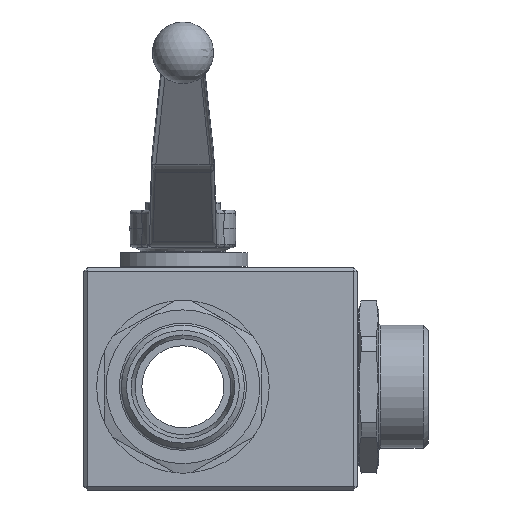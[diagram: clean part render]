
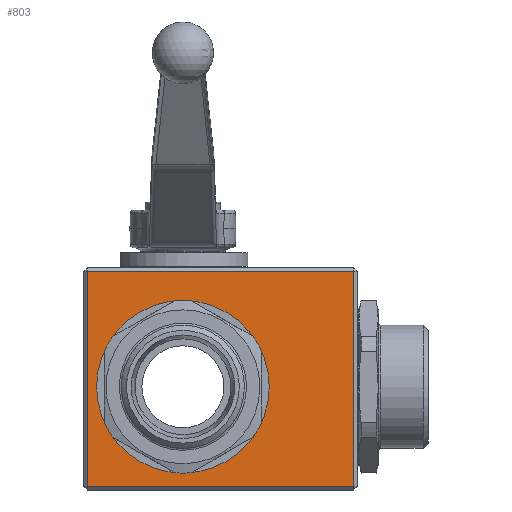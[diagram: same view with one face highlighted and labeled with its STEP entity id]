
A CAD part, front view. The second image highlights one B-rep face of the part: STEP entity #803.
In plain terms, the highlighted planar face has unit normal (0, -1, 0).
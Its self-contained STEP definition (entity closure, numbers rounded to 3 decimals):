
#803 = ADVANCED_FACE( '', ( #1738, #1739 ), #1740, .F. );
#1738 = FACE_OUTER_BOUND( '', #3197, .T. );
#1739 = FACE_BOUND( '', #3198, .T. );
#1740 = PLANE( '', #3199 );
#3197 = EDGE_LOOP( '', ( #5491, #5492, #5493, #5494 ) );
#3198 = EDGE_LOOP( '', ( #5495 ) );
#3199 = AXIS2_PLACEMENT_3D( '', #5496, #5497, #5498 );
#5491 = ORIENTED_EDGE( '', *, *, #7657, .T. );
#5492 = ORIENTED_EDGE( '', *, *, #7690, .T. );
#5493 = ORIENTED_EDGE( '', *, *, #8119, .T. );
#5494 = ORIENTED_EDGE( '', *, *, #7707, .T. );
#5495 = ORIENTED_EDGE( '', *, *, #8120, .F. );
#5496 = CARTESIAN_POINT( '', ( -29., -32.5, 34.8 ) );
#5497 = DIRECTION( '', ( 0., 1., 0. ) );
#5498 = DIRECTION( '', ( 0., 0., 1. ) );
#7657 = EDGE_CURVE( '', #8840, #8845, #8847, .T. );
#7690 = EDGE_CURVE( '', #8845, #8903, #8905, .T. );
#7707 = EDGE_CURVE( '', #8933, #8840, #8934, .T. );
#8119 = EDGE_CURVE( '', #8903, #8933, #9621, .T. );
#8120 = EDGE_CURVE( '', #9622, #9622, #9623, .T. );
#8840 = VERTEX_POINT( '', #10593 );
#8845 = VERTEX_POINT( '', #10600 );
#8847 = LINE( '', #10603, #10604 );
#8903 = VERTEX_POINT( '', #10834 );
#8905 = LINE( '', #10837, #10838 );
#8933 = VERTEX_POINT( '', #10895 );
#8934 = LINE( '', #10896, #10897 );
#9621 = LINE( '', #12637, #12638 );
#9622 = VERTEX_POINT( '', #12639 );
#9623 = CIRCLE( '', #12640, 25.25 );
#10593 = CARTESIAN_POINT( '', ( 50., -32.5, 33.8 ) );
#10600 = CARTESIAN_POINT( '', ( -28., -32.5, 33.8 ) );
#10603 = CARTESIAN_POINT( '', ( -29., -32.5, 33.8 ) );
#10604 = VECTOR( '', #14833, 1000. );
#10834 = CARTESIAN_POINT( '', ( -28., -32.5, -29.2 ) );
#10837 = CARTESIAN_POINT( '', ( -28., -32.5, 34.8 ) );
#10838 = VECTOR( '', #14863, 1000. );
#10895 = CARTESIAN_POINT( '', ( 50., -32.5, -29.2 ) );
#10896 = CARTESIAN_POINT( '', ( 50., -32.5, 34.8 ) );
#10897 = VECTOR( '', #14878, 1000. );
#12637 = CARTESIAN_POINT( '', ( 51., -32.5, -29.2 ) );
#12638 = VECTOR( '', #15385, 1000. );
#12639 = CARTESIAN_POINT( '', ( 25.25, -32.5, 0. ) );
#12640 = AXIS2_PLACEMENT_3D( '', #15386, #15387, #15388 );
#14833 = DIRECTION( '', ( -1., 0., 0. ) );
#14863 = DIRECTION( '', ( 0., 0., -1. ) );
#14878 = DIRECTION( '', ( 0., 0., 1. ) );
#15385 = DIRECTION( '', ( 1., 0., 0. ) );
#15386 = CARTESIAN_POINT( '', ( 0., -32.5, 0. ) );
#15387 = DIRECTION( '', ( 0., -1., 0. ) );
#15388 = DIRECTION( '', ( 1., 0., 0. ) );
